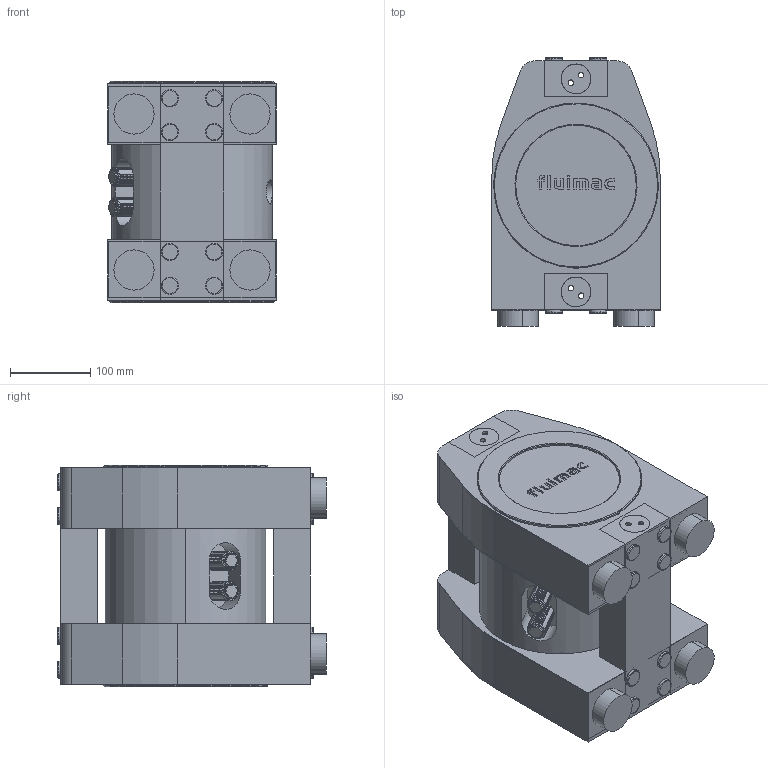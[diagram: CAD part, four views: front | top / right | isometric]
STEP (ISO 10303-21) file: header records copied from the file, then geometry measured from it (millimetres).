
FILE_DESCRIPTION (( 'STEP AP203' ), '1' );
FILE_NAME ('LOTUS 25.STEP', '2024-06-19T10:19:04', ( '' ), ( '' ), 'SwSTEP 2.0', 'SolidWorks 2023', '' );
FILE_SCHEMA (( 'CONFIG_CONTROL_DESIGN' ));
Products named in the file (1): LOTUS 25
Bounding box: 209.5 x 334 x 275 mm (x, y, z)
Volume: 1874308.6 mm3; surface area: 1006787.6 mm2
Topology: 35 solids, 35 shells, 2283 faces, 6549 edges, 4318 vertices
Faces by surface type: plane 1154, cylinder 608, torus 390, bspline 101, cone 18, sphere 12
Entity records: 81977 total; most frequent: CARTESIAN_POINT 23277, ORIENTED_EDGE 13074, DIRECTION 10877, EDGE_CURVE 6537, VERTEX_POINT 4316, VECTOR 3663, LINE 3663, AXIS2_PLACEMENT_3D 3607
